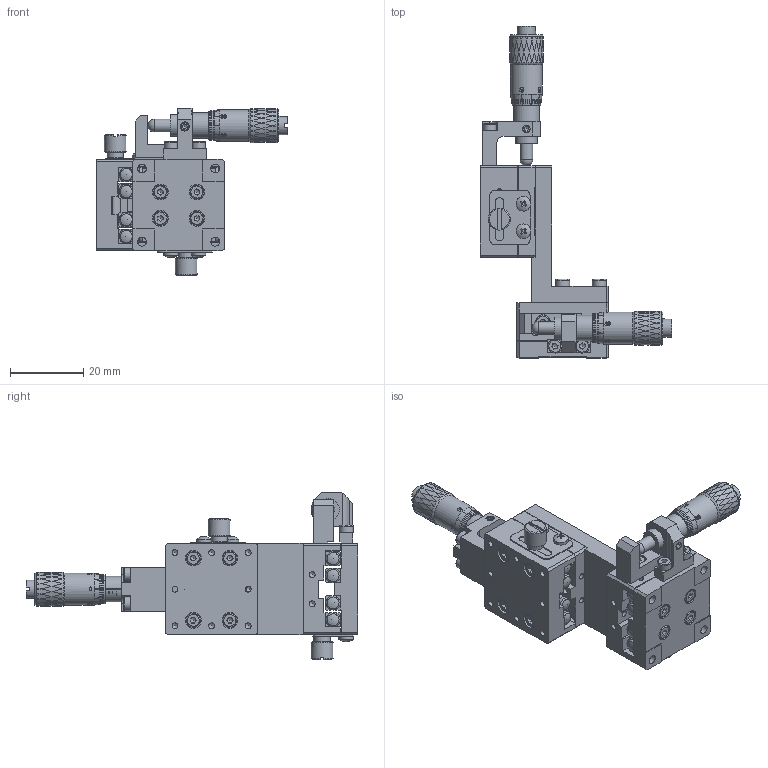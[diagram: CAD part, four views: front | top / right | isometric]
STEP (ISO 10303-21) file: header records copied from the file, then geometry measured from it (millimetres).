
FILE_DESCRIPTION (( 'STEP AP203' ), '1' );
FILE_NAME ('BVE25.STEP', '2024-07-23T08:02:56', ( 'Windows User' ), ( 'P R C' ), 'SwSTEP 2.0', 'SolidWorks 2024', '' );
FILE_SCHEMA (( 'CONFIG_CONTROL_DESIGN' ));
Products named in the file (1): BVE25
Bounding box: 52.3 x 90.7 x 45.8 mm (x, y, z)
Volume: 26956.5 mm3; surface area: 27576.8 mm2
Topology: 58 solids, 58 shells, 2414 faces, 5709 edges, 3630 vertices
Faces by surface type: plane 979, bspline 590, cylinder 501, cone 278, torus 62, sphere 4
Full cylindrical faces by diameter (mm): 1.6 x54, 1.65 x16, 2 x34, 2.05 x2, 2.2 x4, 2.4 x28, 2.5 x8, 3 x16, 3.5 x4, 3.8 x28, 3.9 x16, 4 x14, 4.3 x16, 4.5 x2, 5 x4, 6 x6, 7 x4, 8.7 x2
Entity records: 92661 total; most frequent: CARTESIAN_POINT 45059, ORIENTED_EDGE 10212, DIRECTION 7696, EDGE_CURVE 5106, VERTEX_POINT 3490, EDGE_LOOP 3256, AXIS2_PLACEMENT_3D 2965, FACE_OUTER_BOUND 2722
